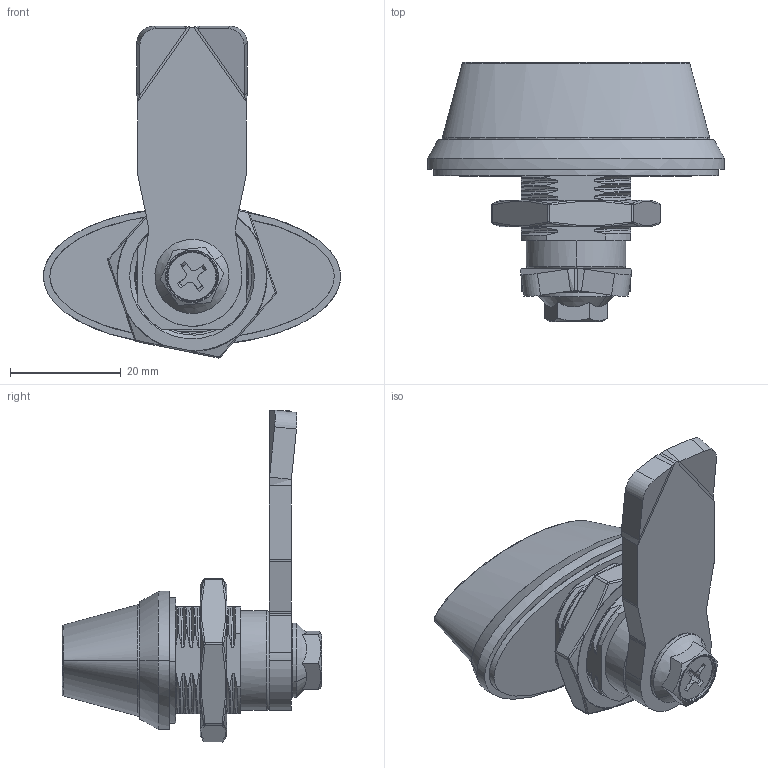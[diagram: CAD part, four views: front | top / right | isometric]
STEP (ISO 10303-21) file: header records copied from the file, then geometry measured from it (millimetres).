
FILE_DESCRIPTION (( 'STEP AP214' ), '1' );
FILE_NAME ('CUYUE.MS414-2.STEP', '2026-07-02T02:38:30', ( '' ), ( '' ), 'SwSTEP 2.0', 'SolidWorks 2020', '' );
FILE_SCHEMA (( 'AUTOMOTIVE_DESIGN' ));
Length unit declared in the file: millimetre
Products named in the file (10): CAM4500H4; 砎蝶菜^MS4141; CUYUE.MS414-2; J-M22蹟譫; 呿蹋裔; 坶褲; MS414-2等疏え; MS414-2忒梟; 16X1.9密封圈; M6X8蹟隊
Assembly tree (9 placements, depth 2):
  CUYUE.MS414-2
    坶褲
    MS414-2等疏え
    MS414-2忒梟
    呿蹋裔
    16X1.9密封圈
    CAM4500H4
    M6X8蹟隊
    J-M22蹟譫
    砎蝶菜^MS4141
Bounding box: 53.6 x 46.8 x 59.92 mm (x, y, z)
Volume: 20948.4 mm3; surface area: 19310.9 mm2
Topology: 9 solids, 9 shells, 566 faces, 1482 edges, 941 vertices
Faces by surface type: bspline 208, cylinder 174, plane 146, cone 25, torus 13
Entity records: 54685 total; most frequent: CARTESIAN_POINT 42388, ORIENTED_EDGE 2960, DIRECTION 1865, EDGE_CURVE 1480, VERTEX_POINT 941, AXIS2_PLACEMENT_3D 653, EDGE_LOOP 589, FACE_OUTER_BOUND 566
